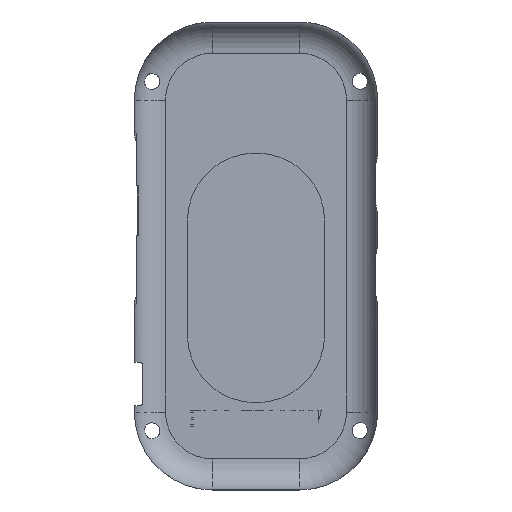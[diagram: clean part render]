
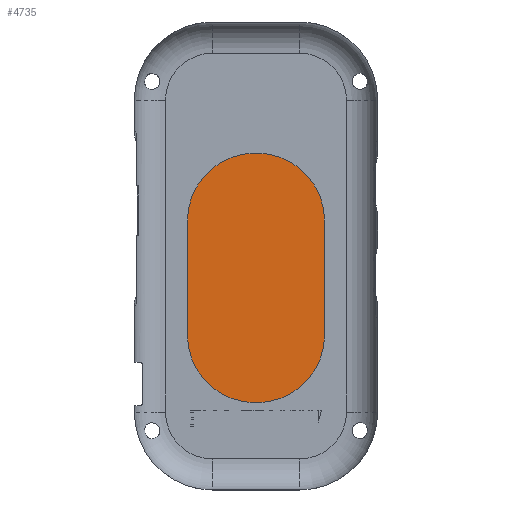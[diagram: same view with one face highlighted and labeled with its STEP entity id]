
A CAD part, top view. The second image highlights one B-rep face of the part: STEP entity #4735.
In plain terms, the highlighted planar face has unit normal (0, 0, -1).
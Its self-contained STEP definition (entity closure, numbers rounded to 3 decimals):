
#4735 = ADVANCED_FACE('',(#4736),#4751,.F.);
#4736 = FACE_BOUND('',#4737,.F.);
#4737 = EDGE_LOOP('',(#4738,#4762,#4778,#4795,#4811,#4828,#4844,#4861));
#4738 = ORIENTED_EDGE('',*,*,#4739,.T.);
#4739 = EDGE_CURVE('',#4740,#4742,#4744,.T.);
#4740 = VERTEX_POINT('',#4741);
#4741 = CARTESIAN_POINT('',(0.2,-47.,-24.));
#4742 = VERTEX_POINT('',#4743);
#4743 = CARTESIAN_POINT('',(22.,-25.2,-24.));
#4744 = SURFACE_CURVE('',#4745,(#4750),.PCURVE_S1.);
#4745 = CIRCLE('',#4746,21.8);
#4746 = AXIS2_PLACEMENT_3D('',#4747,#4748,#4749);
#4747 = CARTESIAN_POINT('',(0.2,-25.2,-24.));
#4748 = DIRECTION('',(0.,0.,1.));
#4749 = DIRECTION('',(1.,0.,-0.));
#4750 = PCURVE('',#4751,#4756);
#4751 = PLANE('',#4752);
#4752 = AXIS2_PLACEMENT_3D('',#4753,#4754,#4755);
#4753 = CARTESIAN_POINT('',(0.,0.,-24.));
#4754 = DIRECTION('',(0.,0.,1.));
#4755 = DIRECTION('',(1.,0.,-0.));
#4756 = DEFINITIONAL_REPRESENTATION('',(#4757),#4761);
#4757 = CIRCLE('',#4758,21.8);
#4758 = AXIS2_PLACEMENT_2D('',#4759,#4760);
#4759 = CARTESIAN_POINT('',(0.2,-25.2));
#4760 = DIRECTION('',(1.,0.));
#4761 = ( GEOMETRIC_REPRESENTATION_CONTEXT(2) 
PARAMETRIC_REPRESENTATION_CONTEXT() REPRESENTATION_CONTEXT('2D SPACE',''
  ) );
#4762 = ORIENTED_EDGE('',*,*,#4763,.T.);
#4763 = EDGE_CURVE('',#4742,#4764,#4766,.T.);
#4764 = VERTEX_POINT('',#4765);
#4765 = CARTESIAN_POINT('',(22.,11.2,-24.));
#4766 = SURFACE_CURVE('',#4767,(#4771),.PCURVE_S1.);
#4767 = LINE('',#4768,#4769);
#4768 = CARTESIAN_POINT('',(22.,-12.6,-24.));
#4769 = VECTOR('',#4770,1.);
#4770 = DIRECTION('',(0.,1.,0.));
#4771 = PCURVE('',#4751,#4772);
#4772 = DEFINITIONAL_REPRESENTATION('',(#4773),#4777);
#4773 = LINE('',#4774,#4775);
#4774 = CARTESIAN_POINT('',(22.,-12.6));
#4775 = VECTOR('',#4776,1.);
#4776 = DIRECTION('',(0.,1.));
#4777 = ( GEOMETRIC_REPRESENTATION_CONTEXT(2) 
PARAMETRIC_REPRESENTATION_CONTEXT() REPRESENTATION_CONTEXT('2D SPACE',''
  ) );
#4778 = ORIENTED_EDGE('',*,*,#4779,.T.);
#4779 = EDGE_CURVE('',#4764,#4780,#4782,.T.);
#4780 = VERTEX_POINT('',#4781);
#4781 = CARTESIAN_POINT('',(0.2,33.,-24.));
#4782 = SURFACE_CURVE('',#4783,(#4788),.PCURVE_S1.);
#4783 = CIRCLE('',#4784,21.8);
#4784 = AXIS2_PLACEMENT_3D('',#4785,#4786,#4787);
#4785 = CARTESIAN_POINT('',(0.2,11.2,-24.));
#4786 = DIRECTION('',(0.,-0.,1.));
#4787 = DIRECTION('',(0.,1.,0.));
#4788 = PCURVE('',#4751,#4789);
#4789 = DEFINITIONAL_REPRESENTATION('',(#4790),#4794);
#4790 = CIRCLE('',#4791,21.8);
#4791 = AXIS2_PLACEMENT_2D('',#4792,#4793);
#4792 = CARTESIAN_POINT('',(0.2,11.2));
#4793 = DIRECTION('',(0.,1.));
#4794 = ( GEOMETRIC_REPRESENTATION_CONTEXT(2) 
PARAMETRIC_REPRESENTATION_CONTEXT() REPRESENTATION_CONTEXT('2D SPACE',''
  ) );
#4795 = ORIENTED_EDGE('',*,*,#4796,.T.);
#4796 = EDGE_CURVE('',#4780,#4797,#4799,.T.);
#4797 = VERTEX_POINT('',#4798);
#4798 = CARTESIAN_POINT('',(-0.2,33.,-24.));
#4799 = SURFACE_CURVE('',#4800,(#4804),.PCURVE_S1.);
#4800 = LINE('',#4801,#4802);
#4801 = CARTESIAN_POINT('',(0.1,33.,-24.));
#4802 = VECTOR('',#4803,1.);
#4803 = DIRECTION('',(-1.,0.,0.));
#4804 = PCURVE('',#4751,#4805);
#4805 = DEFINITIONAL_REPRESENTATION('',(#4806),#4810);
#4806 = LINE('',#4807,#4808);
#4807 = CARTESIAN_POINT('',(0.1,33.));
#4808 = VECTOR('',#4809,1.);
#4809 = DIRECTION('',(-1.,0.));
#4810 = ( GEOMETRIC_REPRESENTATION_CONTEXT(2) 
PARAMETRIC_REPRESENTATION_CONTEXT() REPRESENTATION_CONTEXT('2D SPACE',''
  ) );
#4811 = ORIENTED_EDGE('',*,*,#4812,.T.);
#4812 = EDGE_CURVE('',#4797,#4813,#4815,.T.);
#4813 = VERTEX_POINT('',#4814);
#4814 = CARTESIAN_POINT('',(-22.,11.2,-24.));
#4815 = SURFACE_CURVE('',#4816,(#4821),.PCURVE_S1.);
#4816 = CIRCLE('',#4817,21.8);
#4817 = AXIS2_PLACEMENT_3D('',#4818,#4819,#4820);
#4818 = CARTESIAN_POINT('',(-0.2,11.2,-24.));
#4819 = DIRECTION('',(0.,0.,1.));
#4820 = DIRECTION('',(-1.,0.,0.));
#4821 = PCURVE('',#4751,#4822);
#4822 = DEFINITIONAL_REPRESENTATION('',(#4823),#4827);
#4823 = CIRCLE('',#4824,21.8);
#4824 = AXIS2_PLACEMENT_2D('',#4825,#4826);
#4825 = CARTESIAN_POINT('',(-0.2,11.2));
#4826 = DIRECTION('',(-1.,0.));
#4827 = ( GEOMETRIC_REPRESENTATION_CONTEXT(2) 
PARAMETRIC_REPRESENTATION_CONTEXT() REPRESENTATION_CONTEXT('2D SPACE',''
  ) );
#4828 = ORIENTED_EDGE('',*,*,#4829,.T.);
#4829 = EDGE_CURVE('',#4813,#4830,#4832,.T.);
#4830 = VERTEX_POINT('',#4831);
#4831 = CARTESIAN_POINT('',(-22.,-25.2,-24.));
#4832 = SURFACE_CURVE('',#4833,(#4837),.PCURVE_S1.);
#4833 = LINE('',#4834,#4835);
#4834 = CARTESIAN_POINT('',(-22.,5.6,-24.));
#4835 = VECTOR('',#4836,1.);
#4836 = DIRECTION('',(0.,-1.,0.));
#4837 = PCURVE('',#4751,#4838);
#4838 = DEFINITIONAL_REPRESENTATION('',(#4839),#4843);
#4839 = LINE('',#4840,#4841);
#4840 = CARTESIAN_POINT('',(-22.,5.6));
#4841 = VECTOR('',#4842,1.);
#4842 = DIRECTION('',(0.,-1.));
#4843 = ( GEOMETRIC_REPRESENTATION_CONTEXT(2) 
PARAMETRIC_REPRESENTATION_CONTEXT() REPRESENTATION_CONTEXT('2D SPACE',''
  ) );
#4844 = ORIENTED_EDGE('',*,*,#4845,.T.);
#4845 = EDGE_CURVE('',#4830,#4846,#4848,.T.);
#4846 = VERTEX_POINT('',#4847);
#4847 = CARTESIAN_POINT('',(-0.2,-47.,-24.));
#4848 = SURFACE_CURVE('',#4849,(#4854),.PCURVE_S1.);
#4849 = CIRCLE('',#4850,21.8);
#4850 = AXIS2_PLACEMENT_3D('',#4851,#4852,#4853);
#4851 = CARTESIAN_POINT('',(-0.2,-25.2,-24.));
#4852 = DIRECTION('',(0.,0.,1.));
#4853 = DIRECTION('',(0.,-1.,0.));
#4854 = PCURVE('',#4751,#4855);
#4855 = DEFINITIONAL_REPRESENTATION('',(#4856),#4860);
#4856 = CIRCLE('',#4857,21.8);
#4857 = AXIS2_PLACEMENT_2D('',#4858,#4859);
#4858 = CARTESIAN_POINT('',(-0.2,-25.2));
#4859 = DIRECTION('',(0.,-1.));
#4860 = ( GEOMETRIC_REPRESENTATION_CONTEXT(2) 
PARAMETRIC_REPRESENTATION_CONTEXT() REPRESENTATION_CONTEXT('2D SPACE',''
  ) );
#4861 = ORIENTED_EDGE('',*,*,#4862,.T.);
#4862 = EDGE_CURVE('',#4846,#4740,#4863,.T.);
#4863 = SURFACE_CURVE('',#4864,(#4868),.PCURVE_S1.);
#4864 = LINE('',#4865,#4866);
#4865 = CARTESIAN_POINT('',(-0.1,-47.,-24.));
#4866 = VECTOR('',#4867,1.);
#4867 = DIRECTION('',(1.,0.,0.));
#4868 = PCURVE('',#4751,#4869);
#4869 = DEFINITIONAL_REPRESENTATION('',(#4870),#4874);
#4870 = LINE('',#4871,#4872);
#4871 = CARTESIAN_POINT('',(-0.1,-47.));
#4872 = VECTOR('',#4873,1.);
#4873 = DIRECTION('',(1.,0.));
#4874 = ( GEOMETRIC_REPRESENTATION_CONTEXT(2) 
PARAMETRIC_REPRESENTATION_CONTEXT() REPRESENTATION_CONTEXT('2D SPACE',''
  ) );
